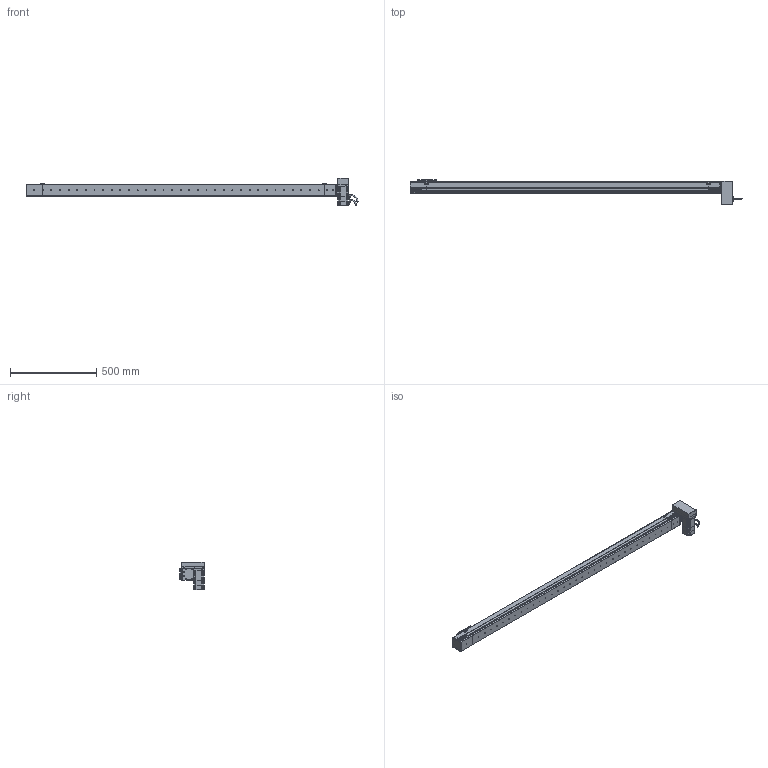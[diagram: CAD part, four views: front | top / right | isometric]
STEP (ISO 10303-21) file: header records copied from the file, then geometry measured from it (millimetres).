
FILE_DESCRIPTION (( 'STEP AP214' ), '1' );
FILE_NAME ('S07 CBN LU S1700.STEP', '2010-06-29T10:58:15', ( 'Conseil Régional Haute-Normandie' ), ( 'Conseil Régional Haute-Normandie' ), 'SwSTEP 2.0', 'SolidWorks 2010', '' );
FILE_SCHEMA (( 'AUTOMOTIVE_DESIGN' ));
Length unit declared in the file: millimetre
Products named in the file (31): P2 90A_Default; Couvercle LU_Default; P3 90A_Default; Support Moteur LU_Default; P1_Default; 60BLDC90A-640_Default; Rondelle de Serrage LU_Default; vis M5 L8_Default; support chariot_Default; chariot_Default; Chariot S07_Default; vis M5 L15_Default; plaque de serrage Tail_Default; Tail S07 Tail_Default; Couvercle S07 S1700_Default; Corp S07 S1700_Default; Plaque de bout Tail_Default; Couvercle Tail_Default; Corp Tail_Default; VisM3_Default; Conecteur2 60BLDC_Default; Conecteur 60BLDC_Default; Axe 60BLDC_Default; P4_Default; Corp LU_Default; Head LU_Default; S07 CBN LU S1700; Cache Support Moteur LU_Default; plaque de serrage LU_Default; Plaque de bout LU_Default
Assembly tree (71 placements, depth 4):
  S07 CBN LU S1700
    Head LU_Default
      vis M5 L15_Default  x16
      Couvercle LU_Default
      Support Moteur LU_Default
      Corp LU_Default
      Rondelle de Serrage LU_Default  x3
      Plaque de bout LU_Default
      plaque de serrage LU_Default
      60BLDC90A-640_Default
        VisM3_Default  x12
        Conecteur 60BLDC_Default
        P1_Default
        P2 90A_Default
        Conecteur2 60BLDC_Default
        P3 90A_Default
        P4_Default
        Axe 60BLDC_Default
      Cache Support Moteur LU_Default
    Corp S07 S1700_Default
      Couvercle S07 S1700_Default
      Corp S07 S1700_Default
    Tail S07 Tail_Default
      vis M5 L15_Default  x6
      plaque de serrage Tail_Default
      Corp Tail_Default
      Plaque de bout Tail_Default
      Couvercle Tail_Default
    Chariot S07_Default
      vis M5 L8_Default  x8
      chariot_Default
      support chariot_Default
Bounding box: 1925.7 x 142 x 162 mm (x, y, z)
Volume: 9357933 mm3; surface area: 1056953.4 mm2
Topology: 108 solids, 108 shells, 3952 faces, 9710 edges, 6252 vertices
Faces by surface type: plane 2270, bspline 756, cylinder 715, torus 112, cone 95, sphere 4
Entity records: 154953 total; most frequent: CARTESIAN_POINT 79851, ORIENTED_EDGE 14940, DIRECTION 11283, EDGE_CURVE 7470, VERTEX_POINT 4937, LINE 4813, VECTOR 4813, AXIS2_PLACEMENT_3D 3235
